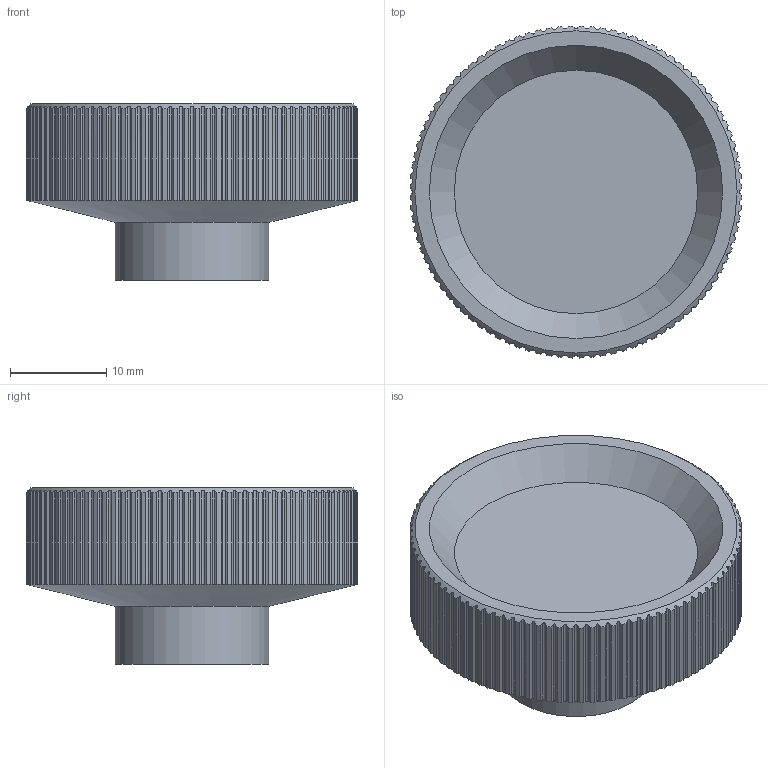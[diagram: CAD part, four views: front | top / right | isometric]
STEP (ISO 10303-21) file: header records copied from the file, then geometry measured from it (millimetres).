
FILE_DESCRIPTION( ('This file contains a STEP AP42 implementation' ,'as created by ZW3D STEP Interface translator.') ,'2;1' );
FILE_NAME( 'Pokretlo radelkowe 35 GW.stp' ,'26 814.113221', (''), ('ZWCAD Software Co.'), 'Version 1.0', 'ZW3D to STEP translator', '' );
FILE_SCHEMA(('AP242_MANAGED_MODEL_BASED_3D_ENGINEERING_MIM_LF { 1 0 10303 442 1 1 4 }'));
Length unit declared in the file: millimetre
Products named in the file (1): 0
Bounding box: 34.49 x 34.49 x 18.3 mm (x, y, z)
Volume: 9569 mm3; surface area: 5005 mm2
Topology: 2 solids, 2 shells, 408 faces, 1204 edges, 802 vertices
Faces by surface type: plane 210, cylinder 194, cone 4
Full cylindrical faces by diameter (mm): 4.2 x1, 16 x1
Entity records: 14426 total; most frequent: CARTESIAN_POINT 4432, ORIENTED_EDGE 2408, DIRECTION 1644, EDGE_CURVE 1204, VERTEX_POINT 802, AXIS2_PLACEMENT_3D 609, VECTOR 426, LINE 426
